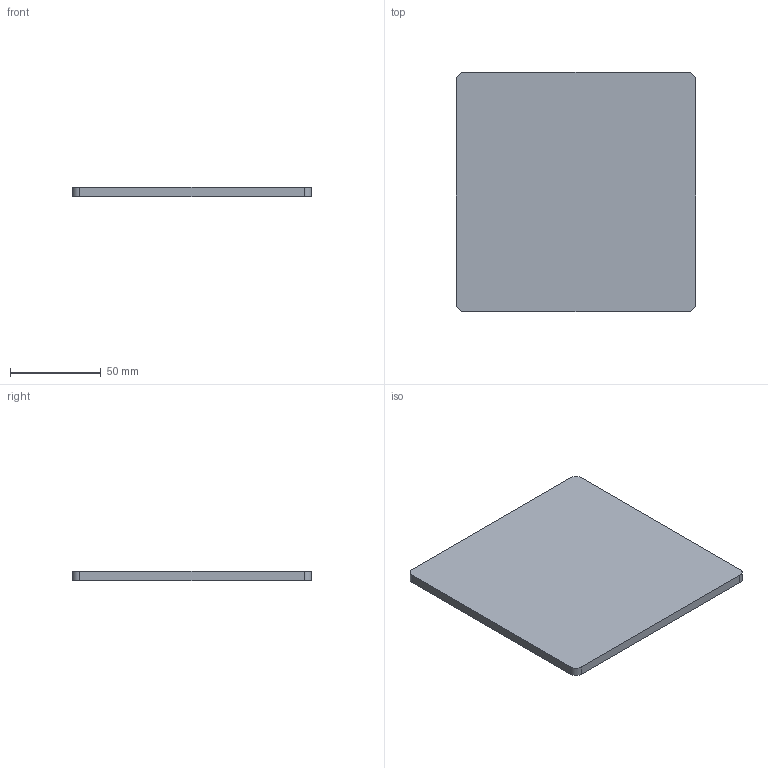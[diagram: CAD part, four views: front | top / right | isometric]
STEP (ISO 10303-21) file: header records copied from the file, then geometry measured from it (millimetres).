
FILE_DESCRIPTION(('FreeCAD Model'),'2;1');
FILE_NAME('Open CASCADE Shape Model','2026-10-31T13:49:49',('FreeCAD'),( 'FreeCAD'),'Open CASCADE STEP processor 7.8','FreeCAD','Unknown');
FILE_SCHEMA(('AUTOMOTIVE_DESIGN { 1 0 10303 214 1 1 1 1 }'));
Length unit declared in the file: millimetre
Products named in the file (1): Open CASCADE STEP translator 7.8 16
Bounding box: 132 x 132 x 5 mm (x, y, z)
Volume: 87051.3 mm3; surface area: 37426.2 mm2
Topology: 1 solids, 1 shells, 10 faces, 24 edges, 16 vertices
Faces by surface type: plane 6, cylinder 4
Entity records: 306 total; most frequent: DIRECTION 54, CARTESIAN_POINT 51, ORIENTED_EDGE 48, EDGE_CURVE 24, AXIS2_PLACEMENT_3D 19, VERTEX_POINT 16, LINE 16, VECTOR 16
